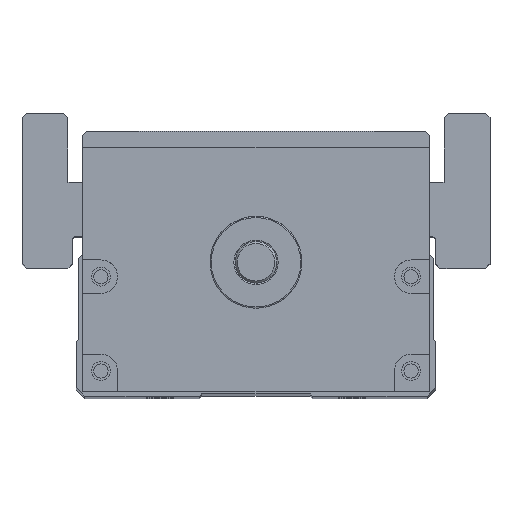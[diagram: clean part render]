
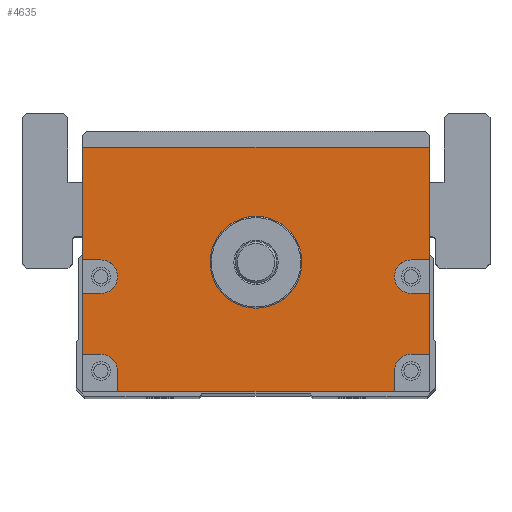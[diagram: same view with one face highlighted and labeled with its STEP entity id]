
A CAD part, top view. The second image highlights one B-rep face of the part: STEP entity #4635.
In plain terms, the highlighted planar face has unit normal (0, 0, 1).
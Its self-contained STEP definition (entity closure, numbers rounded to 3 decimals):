
#3405=FACE_BOUND('',#6174,.T.);
#3406=FACE_BOUND('',#6175,.T.);
#3865=CIRCLE('',#14102,11.);
#3876=CIRCLE('',#14116,4.);
#3877=CIRCLE('',#14117,4.);
#3878=CIRCLE('',#14118,4.);
#3879=CIRCLE('',#14119,4.);
#4635=ADVANCED_FACE('',(#3405,#3406),#5106,.T.);
#5106=PLANE('',#14120);
#6174=EDGE_LOOP('',(#8357,#8358,#8359,#8360,#8361,#8362,#8363,#8364,#8365,
#8366,#8367,#8368,#8369,#8370,#8371,#8372,#8373,#8374));
#6175=EDGE_LOOP('',(#8375));
#8357=ORIENTED_EDGE('',*,*,#11374,.F.);
#8358=ORIENTED_EDGE('',*,*,#11375,.T.);
#8359=ORIENTED_EDGE('',*,*,#11376,.F.);
#8360=ORIENTED_EDGE('',*,*,#11377,.F.);
#8361=ORIENTED_EDGE('',*,*,#11378,.F.);
#8362=ORIENTED_EDGE('',*,*,#11379,.T.);
#8363=ORIENTED_EDGE('',*,*,#11370,.T.);
#8364=ORIENTED_EDGE('',*,*,#11380,.T.);
#8365=ORIENTED_EDGE('',*,*,#11381,.F.);
#8366=ORIENTED_EDGE('',*,*,#11382,.F.);
#8367=ORIENTED_EDGE('',*,*,#11383,.F.);
#8368=ORIENTED_EDGE('',*,*,#11384,.T.);
#8369=ORIENTED_EDGE('',*,*,#11385,.F.);
#8370=ORIENTED_EDGE('',*,*,#11386,.F.);
#8371=ORIENTED_EDGE('',*,*,#11387,.F.);
#8372=ORIENTED_EDGE('',*,*,#11388,.T.);
#8373=ORIENTED_EDGE('',*,*,#11389,.F.);
#8374=ORIENTED_EDGE('',*,*,#11390,.F.);
#8375=ORIENTED_EDGE('',*,*,#11356,.T.);
#10056=VERTEX_POINT('',#19936);
#10069=VERTEX_POINT('',#19964);
#10070=VERTEX_POINT('',#19966);
#10073=VERTEX_POINT('',#19974);
#10074=VERTEX_POINT('',#19975);
#10075=VERTEX_POINT('',#19977);
#10076=VERTEX_POINT('',#19979);
#10077=VERTEX_POINT('',#19981);
#10078=VERTEX_POINT('',#19983);
#10079=VERTEX_POINT('',#19986);
#10080=VERTEX_POINT('',#19988);
#10081=VERTEX_POINT('',#19990);
#10082=VERTEX_POINT('',#19992);
#10083=VERTEX_POINT('',#19994);
#10084=VERTEX_POINT('',#19996);
#10085=VERTEX_POINT('',#19998);
#10086=VERTEX_POINT('',#20000);
#10087=VERTEX_POINT('',#20002);
#10088=VERTEX_POINT('',#20004);
#11356=EDGE_CURVE('',#10056,#10056,#3865,.T.);
#11370=EDGE_CURVE('',#10070,#10069,#12451,.T.);
#11374=EDGE_CURVE('',#10073,#10074,#12453,.T.);
#11375=EDGE_CURVE('',#10073,#10075,#12454,.T.);
#11376=EDGE_CURVE('',#10076,#10075,#12455,.T.);
#11377=EDGE_CURVE('',#10077,#10076,#3876,.T.);
#11378=EDGE_CURVE('',#10078,#10077,#12456,.T.);
#11379=EDGE_CURVE('',#10078,#10070,#12457,.T.);
#11380=EDGE_CURVE('',#10069,#10079,#12458,.T.);
#11381=EDGE_CURVE('',#10080,#10079,#12459,.T.);
#11382=EDGE_CURVE('',#10081,#10080,#3877,.T.);
#11383=EDGE_CURVE('',#10082,#10081,#12460,.T.);
#11384=EDGE_CURVE('',#10082,#10083,#12461,.T.);
#11385=EDGE_CURVE('',#10084,#10083,#12462,.T.);
#11386=EDGE_CURVE('',#10085,#10084,#3878,.T.);
#11387=EDGE_CURVE('',#10086,#10085,#12463,.T.);
#11388=EDGE_CURVE('',#10086,#10087,#12464,.T.);
#11389=EDGE_CURVE('',#10088,#10087,#12465,.T.);
#11390=EDGE_CURVE('',#10074,#10088,#3879,.T.);
#12451=LINE('',#19965,#13235);
#12453=LINE('',#19973,#13237);
#12454=LINE('',#19976,#13238);
#12455=LINE('',#19978,#13239);
#12456=LINE('',#19982,#13240);
#12457=LINE('',#19984,#13241);
#12458=LINE('',#19985,#13242);
#12459=LINE('',#19987,#13243);
#12460=LINE('',#19991,#13244);
#12461=LINE('',#19993,#13245);
#12462=LINE('',#19995,#13246);
#12463=LINE('',#19999,#13247);
#12464=LINE('',#20001,#13248);
#12465=LINE('',#20003,#13249);
#13235=VECTOR('',#16364,1.);
#13237=VECTOR('',#16372,1.);
#13238=VECTOR('',#16373,1.);
#13239=VECTOR('',#16374,1.);
#13240=VECTOR('',#16377,1.);
#13241=VECTOR('',#16378,1.);
#13242=VECTOR('',#16379,1.);
#13243=VECTOR('',#16380,1.);
#13244=VECTOR('',#16383,1.);
#13245=VECTOR('',#16384,1.);
#13246=VECTOR('',#16385,1.);
#13247=VECTOR('',#16388,1.);
#13248=VECTOR('',#16389,1.);
#13249=VECTOR('',#16390,1.);
#14102=AXIS2_PLACEMENT_3D('',#19935,#16337,#16338);
#14116=AXIS2_PLACEMENT_3D('',#19980,#16375,#16376);
#14117=AXIS2_PLACEMENT_3D('',#19989,#16381,#16382);
#14118=AXIS2_PLACEMENT_3D('',#19997,#16386,#16387);
#14119=AXIS2_PLACEMENT_3D('',#20005,#16391,#16392);
#14120=AXIS2_PLACEMENT_3D('',#20006,#16393,#16394);
#16337=DIRECTION('',(0.,0.,-1.));
#16338=DIRECTION('',(1.,0.,0.));
#16364=DIRECTION('',(-1.,0.,0.));
#16372=DIRECTION('',(-1.,0.,0.));
#16373=DIRECTION('',(0.,1.,0.));
#16374=DIRECTION('',(1.,0.,0.));
#16375=DIRECTION('',(0.,0.,1.));
#16376=DIRECTION('',(1.,0.,0.));
#16377=DIRECTION('',(-1.,0.,0.));
#16378=DIRECTION('',(0.,1.,0.));
#16379=DIRECTION('',(0.,-1.,0.));
#16380=DIRECTION('',(-1.,0.,0.));
#16381=DIRECTION('',(0.,0.,1.));
#16382=DIRECTION('',(1.,0.,0.));
#16383=DIRECTION('',(1.,0.,0.));
#16384=DIRECTION('',(0.,-1.,0.));
#16385=DIRECTION('',(-1.,0.,0.));
#16386=DIRECTION('',(0.,0.,1.));
#16387=DIRECTION('',(1.,0.,0.));
#16388=DIRECTION('',(0.,1.,0.));
#16389=DIRECTION('',(1.,0.,0.));
#16390=DIRECTION('',(0.,-1.,0.));
#16391=DIRECTION('',(0.,0.,1.));
#16392=DIRECTION('',(1.,0.,0.));
#16393=DIRECTION('',(0.,0.,1.));
#16394=DIRECTION('',(1.,0.,0.));
#19935=CARTESIAN_POINT('',(750.,0.,182.5));
#19936=CARTESIAN_POINT('',(761.,0.,182.5));
#19964=CARTESIAN_POINT('',(708.5,27.5,182.5));
#19965=CARTESIAN_POINT('',(791.5,27.5,182.5));
#19966=CARTESIAN_POINT('',(791.5,27.5,182.5));
#19973=CARTESIAN_POINT('',(791.5,-22.,182.5));
#19974=CARTESIAN_POINT('',(791.5,-22.,182.5));
#19975=CARTESIAN_POINT('',(787.115,-22.,182.5));
#19976=CARTESIAN_POINT('',(791.5,-31.,182.5));
#19977=CARTESIAN_POINT('',(791.5,-7.431,182.5));
#19978=CARTESIAN_POINT('',(791.5,-7.431,182.5));
#19979=CARTESIAN_POINT('',(787.115,-7.431,182.5));
#19980=CARTESIAN_POINT('',(787.115,-3.431,182.5));
#19981=CARTESIAN_POINT('',(787.115,0.569,182.5));
#19982=CARTESIAN_POINT('',(791.5,0.569,182.5));
#19983=CARTESIAN_POINT('',(791.5,0.569,182.5));
#19984=CARTESIAN_POINT('',(791.5,-31.,182.5));
#19985=CARTESIAN_POINT('',(708.5,27.5,182.5));
#19986=CARTESIAN_POINT('',(708.5,0.569,182.5));
#19987=CARTESIAN_POINT('',(791.5,0.569,182.5));
#19988=CARTESIAN_POINT('',(712.885,0.569,182.5));
#19989=CARTESIAN_POINT('',(712.885,-3.431,182.5));
#19990=CARTESIAN_POINT('',(712.885,-7.431,182.5));
#19991=CARTESIAN_POINT('',(791.5,-7.431,182.5));
#19992=CARTESIAN_POINT('',(708.5,-7.431,182.5));
#19993=CARTESIAN_POINT('',(708.5,27.5,182.5));
#19994=CARTESIAN_POINT('',(708.5,-22.,182.5));
#19995=CARTESIAN_POINT('',(791.5,-22.,182.5));
#19996=CARTESIAN_POINT('',(712.885,-22.,182.5));
#19997=CARTESIAN_POINT('',(712.885,-26.,182.5));
#19998=CARTESIAN_POINT('',(716.885,-26.,182.5));
#19999=CARTESIAN_POINT('',(716.885,-31.,182.5));
#20000=CARTESIAN_POINT('',(716.885,-31.,182.5));
#20001=CARTESIAN_POINT('',(708.5,-31.,182.5));
#20002=CARTESIAN_POINT('',(783.115,-31.,182.5));
#20003=CARTESIAN_POINT('',(783.115,-31.,182.5));
#20004=CARTESIAN_POINT('',(783.115,-26.,182.5));
#20005=CARTESIAN_POINT('',(787.115,-26.,182.5));
#20006=CARTESIAN_POINT('',(791.5,-31.,182.5));
